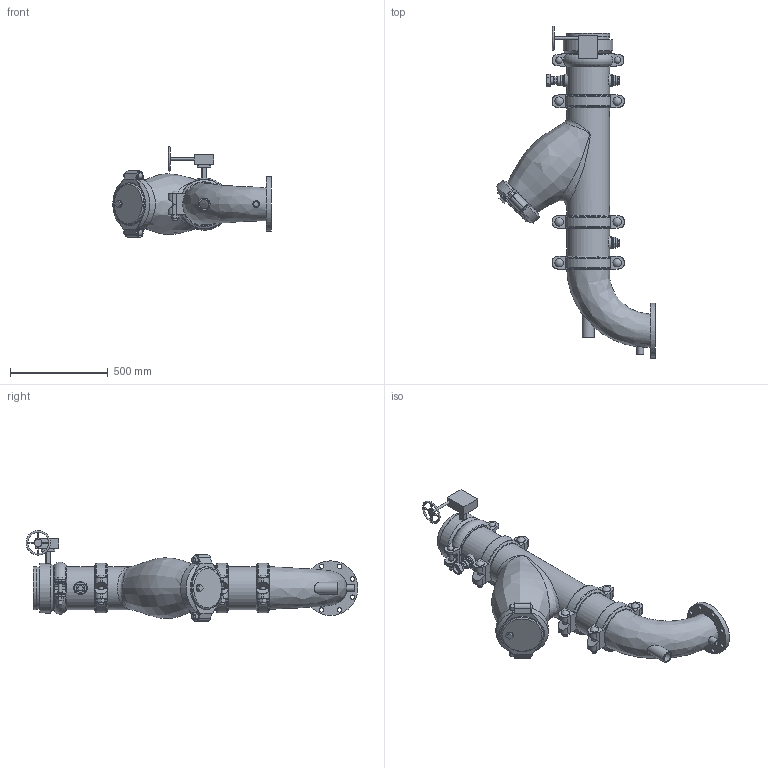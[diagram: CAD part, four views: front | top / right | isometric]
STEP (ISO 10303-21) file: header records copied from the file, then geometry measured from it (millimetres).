
FILE_DESCRIPTION(/* description */ ('VIC SVI PUMP DROP HORZ S/382 (OGSxFLG) (S/924-1.25)','CAx-IF Rec.Pracs.---Representation and Presentation of Product Manufacturing Information (PMI)---4.0---2014-10-13'),/* implementation_level */ '2;1');
FILE_NAME(/* name */ 'C:\Users\Vjadhav\AppData\Roaming\Autodesk\ApplicationPlugins\Victaulic.Temp\A115\Series 382 (OGSxFLG)_924 (1.25)_08.0x06.0 (200x150).stp',/* time_stamp */ '2022-03-17T12:20:17+06:00',/* author */ ('kkamble'),/* organization */ ('Victaulic'),/* preprocessor_version */ 'ST-DEVELOPER v17.2',/* originating_system */ 'Autodesk Inventor 2019',/* authorisation */ '');
FILE_SCHEMA (('AP242_MANAGED_MODEL_BASED_3D_ENGINEERING_MIM_LF { 1 0 10303 442 1 1 4 }'));
Length unit declared in the file: inch
Products named in the file (13): 382_924 (1.25)-08.0x06.0; PIPE-08.0; 107N-08.0; 732-08.0; 732-08.0_1; 07-08.0; 732-08.0_2; PIPE-08.2; 761-08.0; 177N-08.0; 924-04.0x01.25; 923-10.0x0.75; R100F-08.0x06.0
Assembly tree (15 placements, depth 3):
  382_924 (1.25)-08.0x06.0
    PIPE-08.0
    107N-08.0
    732-08.0
      732-08.0_1
      07-08.0
      732-08.0_2
    177N-08.0  x3
    PIPE-08.2
    761-08.0
    924-04.0x01.25
    923-10.0x0.75  x2
    R100F-08.0x06.0
Bounding box: 809.75 x 1696.84 x 463.13 mm (x, y, z)
Volume: 21994248.7 mm3; surface area: 4211753 mm2
Topology: 14 solids, 18 shells, 860 faces, 2245 edges, 1493 vertices
Faces by surface type: plane 487, cylinder 275, torus 31, bspline 30, cone 27, sphere 10
Full cylindrical faces by diameter (mm): 8.636 x4, 12.446 x1, 12.7 x1, 19.05 x8, 21.336 x3, 22.225 x6, 22.352 x8, 22.86 x1, 26.67 x4, 32.537 x4, 34.29 x1, 38.1 x1, 38.608 x1, 39.125 x1, 42.164 x1, 42.85 x6, 45.974 x6, 48.26 x1, 48.514 x1, 55.118 x1, 55.626 x3, 60.96 x1, 76.2 x2, 154.051 x1, 190.5 x1, 202.463 x1, 202.717 x4, 202.819 x1, 206.375 x5, 214.401 x11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
Entity records: 25750 total; most frequent: CARTESIAN_POINT 8970, DIRECTION 3389, ORIENTED_EDGE 3194, EDGE_CURVE 1597, AXIS2_PLACEMENT_3D 1293, VERTEX_POINT 1070, LINE 803, VECTOR 803
